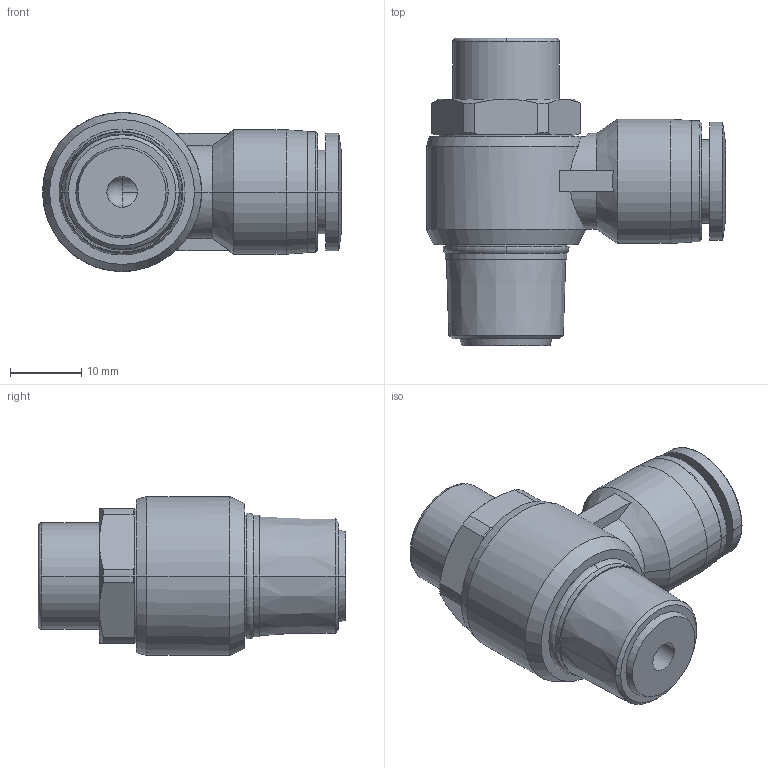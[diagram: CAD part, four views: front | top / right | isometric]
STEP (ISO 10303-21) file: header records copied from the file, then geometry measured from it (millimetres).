
FILE_DESCRIPTION (( 'STEP AP203' ), '1' );
FILE_NAME ('SCLF10-03.STEP', '2020-05-13T17:32:48', ( '' ), ( '' ), 'SwSTEP 2.0', 'SolidWorks 2019', '' );
FILE_SCHEMA (( 'CONFIG_CONTROL_DESIGN' ));
Length unit declared in the file: millimetre
Products named in the file (1): SCLF10-03
Bounding box: 42.1 x 43.3 x 22.4 mm (x, y, z)
Volume: 13782.7 mm3; surface area: 6273.8 mm2
Topology: 1 solids, 1 shells, 144 faces, 349 edges, 216 vertices
Faces by surface type: plane 53, cylinder 43, cone 39, torus 6, bspline 2, sphere 1
Entity records: 4493 total; most frequent: CARTESIAN_POINT 1054, DIRECTION 751, ORIENTED_EDGE 692, EDGE_CURVE 346, AXIS2_PLACEMENT_3D 307, VERTEX_POINT 216, CIRCLE 164, EDGE_LOOP 158
